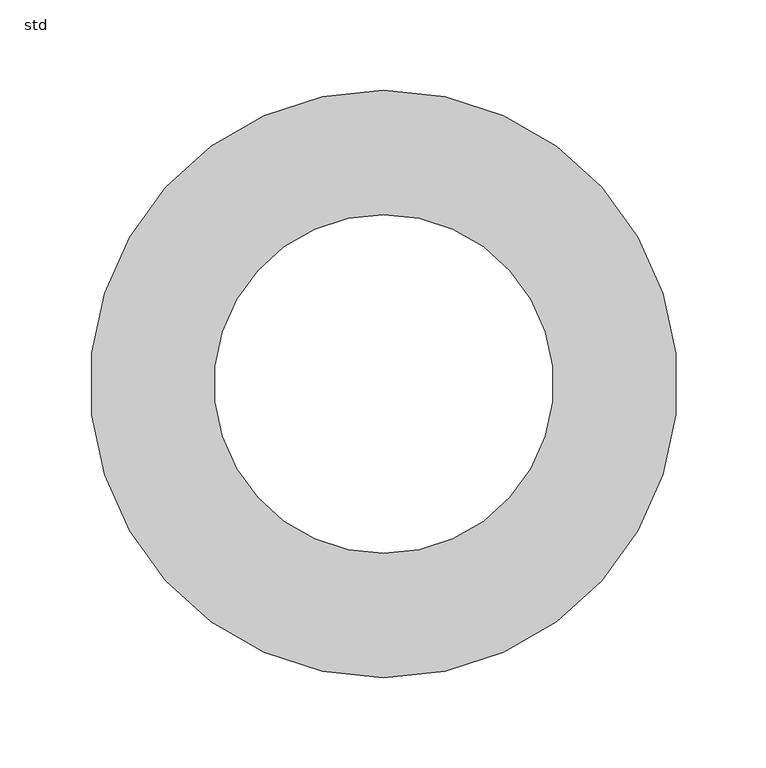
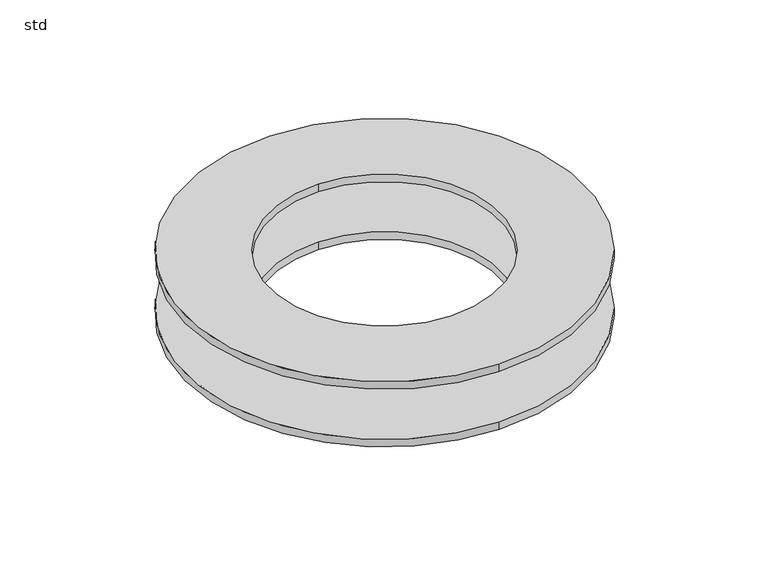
"""IFC4 building model written with IfcOpenShell, lengths in millimetres: sanitary terminal geometry, PF_GEN_UN_double body with grating DN80 Passavant Jet_ACO : std."""

from ifc_helpers import new_model, si_unit, point, frame, origin, origin_2d, place, context, project, spatial, circle_curve, trimmed, segment, composite_curve, outline, extrude, source, transform, mapped, element, save


def std_9cb41771(model_context):
    return source(origin(), model_context, "Body", "SweptSolid", [
        extrude(outline(composite_curve([segment(trimmed(circle_curve(origin_2d(), 163.0), [point((0.0, -163.0))], [point((0.0, 163.0))], False, "CARTESIAN"), True, "CONTINUOUS"), segment(trimmed(circle_curve(origin_2d(), 163.0), [point((0.0, 163.0))], [point((0.0, -163.0))], False, "CARTESIAN"), True, "CONTINUOUS")], self_intersect=False), holes=[composite_curve([segment(trimmed(circle_curve(origin_2d(), 94.0), [point((0.0, -94.0))], [point((0.0, 94.0))], True, "CARTESIAN"), True, "CONTINUOUS"), segment(trimmed(circle_curve(origin_2d(), 94.0), [point((0.0, 94.0))], [point((0.0, -94.0))], True, "CARTESIAN"), True, "CONTINUOUS")], self_intersect=False)]), frame((0.0, 0.0, 59.0), z_axis=(0.0, 0.0, 1.0), x_axis=(1.0, 0.0, 0.0)), (0.0, 0.0, 1.0), 6.5),
        extrude(outline(composite_curve([segment(trimmed(circle_curve(origin_2d(), 163.0), [point((0.0, -163.0))], [point((0.0, 163.0))], False, "CARTESIAN"), True, "CONTINUOUS"), segment(trimmed(circle_curve(origin_2d(), 163.0), [point((0.0, 163.0))], [point((0.0, -163.0))], False, "CARTESIAN"), True, "CONTINUOUS")], self_intersect=False), holes=[composite_curve([segment(trimmed(circle_curve(origin_2d(), 94.0), [point((0.0, -94.0))], [point((0.0, 94.0))], True, "CARTESIAN"), True, "CONTINUOUS"), segment(trimmed(circle_curve(origin_2d(), 94.0), [point((0.0, 94.0))], [point((0.0, -94.0))], True, "CARTESIAN"), True, "CONTINUOUS")], self_intersect=False)]), frame((0.0, 0.0, 9.0), z_axis=(0.0, 0.0, 1.0), x_axis=(1.0, 0.0, 0.0)), (0.0, 0.0, 1.0), 6.5),
    ])


if __name__ == "__main__":
    model = new_model("IFC4")
    model_context = context("Model", 3, world=origin())
    ifc_project = project(units=[si_unit("LENGTHUNIT", "METRE", prefix="MILLI")], contexts=[model_context])
    site = spatial("IfcSite", under=ifc_project)
    building = spatial("IfcBuilding", under=site)
    placement = place(None, origin())
    std_shape = std_9cb41771(model_context)
    element("IfcSanitaryTerminal", 1, ObjectType="PF_GEN_UN_double body with grating DN80 Passavant Jet_ACO : std", at=placement, inside=building, context=model_context, shape_type="MappedRepresentation", body=[
        mapped(std_shape, transform((0.0, 0.0, 0.0), x_axis=(1.0, 0.0, 0.0), y_axis=(0.0, 1.0, 0.0), z_axis=(0.0, 0.0, 1.0))),
    ])
    save(model, "model.ifc")
